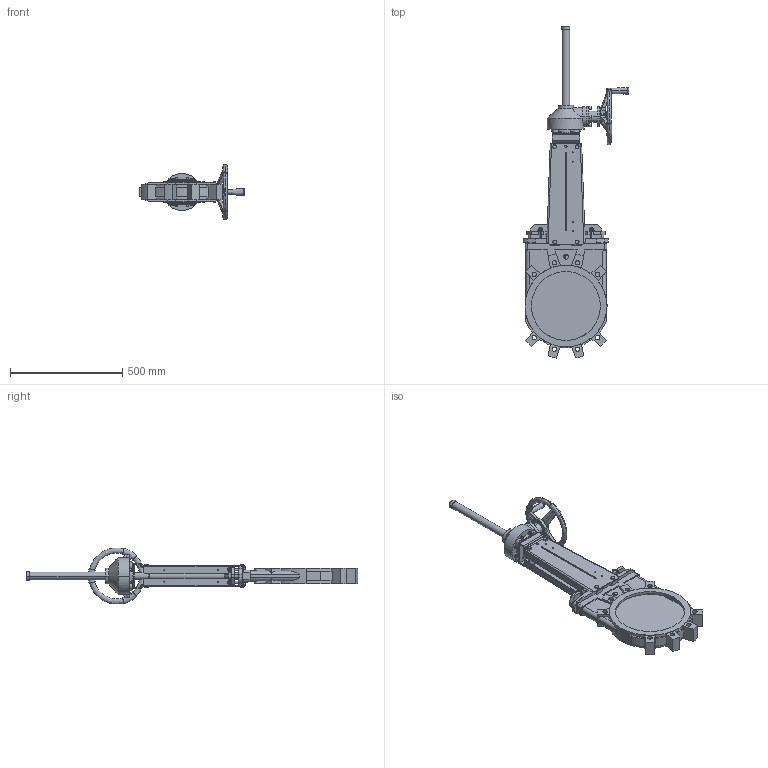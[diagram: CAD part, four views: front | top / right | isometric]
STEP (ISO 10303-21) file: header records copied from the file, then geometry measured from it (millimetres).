
FILE_DESCRIPTION (( 'STEP AP203' ), '1' );
FILE_NAME ('VG G DN300.STEP', '2010-04-22T08:55:15', ( 'farex' ), ( '' ), 'SwSTEP 2.0', 'SolidWorks 2009', '' );
FILE_SCHEMA (( 'CONFIG_CONTROL_DESIGN' ));
Products named in the file (1): VG G DN300
Bounding box: 470 x 1482.05 x 249.05 mm (x, y, z)
Volume: 11071471.2 mm3; surface area: 1422880.8 mm2
Topology: 2 solids, 7 shells, 1070 faces, 2781 edges, 1807 vertices
Faces by surface type: plane 550, cylinder 317, bspline 106, cone 83, torus 14
Entity records: 38677 total; most frequent: CARTESIAN_POINT 12730, ORIENTED_EDGE 5562, DIRECTION 5074, EDGE_CURVE 2781, VERTEX_POINT 1807, AXIS2_PLACEMENT_3D 1755, VECTOR 1564, LINE 1564
